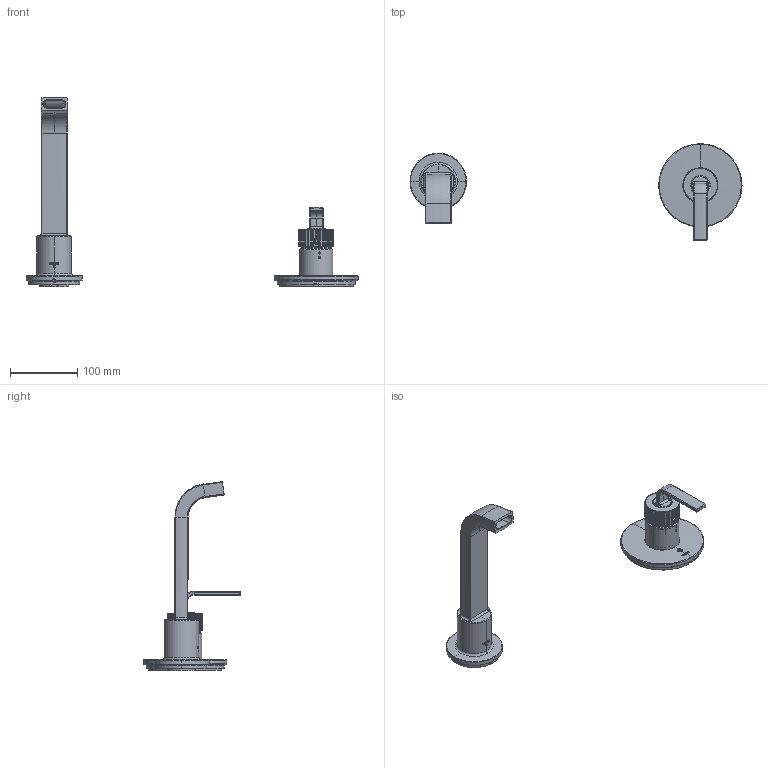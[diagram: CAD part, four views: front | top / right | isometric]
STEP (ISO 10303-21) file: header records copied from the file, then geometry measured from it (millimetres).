
FILE_DESCRIPTION (( 'STEP AP203' ), '1' );
FILE_NAME ('sku_wts574series_stp.STEP', '2026-04-14T11:20:52', ( '' ), ( '' ), 'SwSTEP 2.0', 'SolidWorks 2025', '' );
FILE_SCHEMA (( 'CONFIG_CONTROL_DESIGN' ));
Length unit declared in the file: millimetre
Products named in the file (14): 218844SERIES_218844SERIES; 216034SERIES_P216034SERIES; 206654_206654; 216028SERIES_216028SERIES; 91004_91004; sku_wts574series_stp; 216030SERIES_216030SERIES; 206659_206659_BREP; 218847SERIES_218847SERIES; 218845SERIES_218845SERIES; 206656_206656_BREP; 206662_206662; 196901SERIES_196901SERIES; 206658_206658_BREP
Assembly tree (13 placements, depth 3):
  sku_wts574series_stp
    216030SERIES_216030SERIES
      216028SERIES_216028SERIES
      206654_206654
      91004_91004
    196901SERIES_196901SERIES
    218847SERIES_218847SERIES
      218845SERIES_218845SERIES
      218844SERIES_218844SERIES
    216034SERIES_P216034SERIES
    206662_206662
      206656_206656_BREP
      206659_206659_BREP
      206658_206658_BREP
Bounding box: 494 x 144 x 281.93 mm (x, y, z)
Volume: 305574.6 mm3; surface area: 187867.5 mm2
Topology: 10 solids, 10 shells, 1690 faces, 4314 edges, 2674 vertices
Faces by surface type: cylinder 588, bspline 428, torus 327, plane 265, cone 55, sphere 27
Entity records: 107068 total; most frequent: CARTESIAN_POINT 67752, ORIENTED_EDGE 8618, DIRECTION 7261, EDGE_CURVE 4309, AXIS2_PLACEMENT_3D 3065, VERTEX_POINT 2674, CIRCLE 1784, EDGE_LOOP 1751
